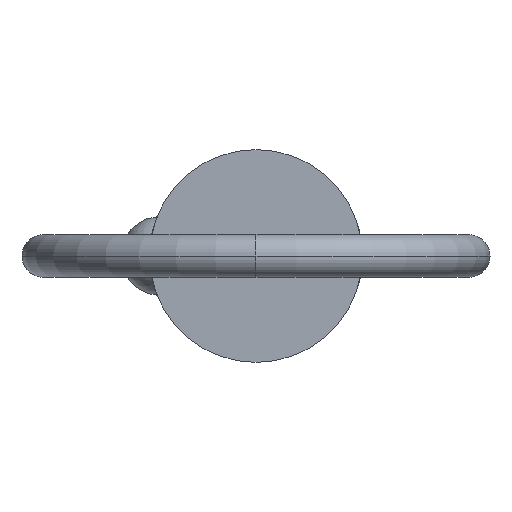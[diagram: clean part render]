
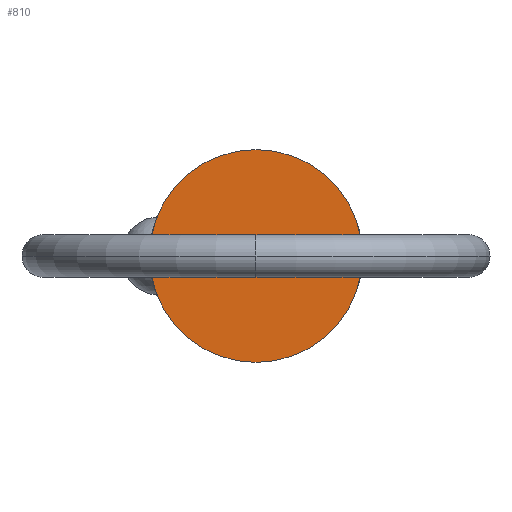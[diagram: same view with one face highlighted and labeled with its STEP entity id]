
A CAD part, left-side view. The second image highlights one B-rep face of the part: STEP entity #810.
In plain terms, the highlighted planar face has unit normal (-1, 0, 0).
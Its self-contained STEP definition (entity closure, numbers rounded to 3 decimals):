
#46 = CIRCLE ( 'NONE', #750, 7.94 ) ;
#141 = ORIENTED_EDGE ( 'NONE', *, *, #693, .F. ) ;
#151 = VERTEX_POINT ( 'NONE', #793 ) ;
#227 = AXIS2_PLACEMENT_3D ( 'NONE', #482, #753, #547 ) ;
#262 = DIRECTION ( 'NONE',  ( 1., 0., 0. ) ) ;
#270 = ORIENTED_EDGE ( 'NONE', *, *, #340, .F. ) ;
#295 = DIRECTION ( 'NONE',  ( 0., 0., -1. ) ) ;
#297 = VERTEX_POINT ( 'NONE', #638 ) ;
#326 = CARTESIAN_POINT ( 'NONE',  ( 0., 0., 0. ) ) ;
#335 = DIRECTION ( 'NONE',  ( 0., 0., -1. ) ) ;
#340 = EDGE_CURVE ( 'NONE', #297, #151, #46, .T. ) ;
#449 = AXIS2_PLACEMENT_3D ( 'NONE', #326, #262, #335 ) ;
#482 = CARTESIAN_POINT ( 'NONE',  ( 0., 0., 0. ) ) ;
#540 = FACE_OUTER_BOUND ( 'NONE', #812, .T. ) ;
#547 = DIRECTION ( 'NONE',  ( 0., 0., 1. ) ) ;
#615 = PLANE ( 'NONE',  #227 ) ;
#638 = CARTESIAN_POINT ( 'NONE',  ( 0., 0., -7.94 ) ) ;
#693 = EDGE_CURVE ( 'NONE', #151, #297, #724, .T. ) ;
#724 = CIRCLE ( 'NONE', #449, 7.94 ) ;
#750 = AXIS2_PLACEMENT_3D ( 'NONE', #836, #841, #295 ) ;
#753 = DIRECTION ( 'NONE',  ( -1., 0., 0. ) ) ;
#793 = CARTESIAN_POINT ( 'NONE',  ( 0., 0., 7.94 ) ) ;
#810 = ADVANCED_FACE ( 'NONE', ( #540 ), #615, .T. ) ;
#812 = EDGE_LOOP ( 'NONE', ( #270, #141 ) ) ;
#836 = CARTESIAN_POINT ( 'NONE',  ( 0., 0., 0. ) ) ;
#841 = DIRECTION ( 'NONE',  ( 1., 0., 0. ) ) ;
